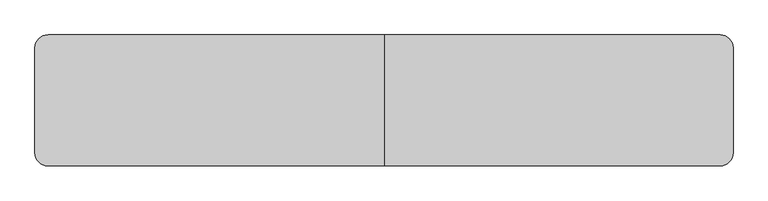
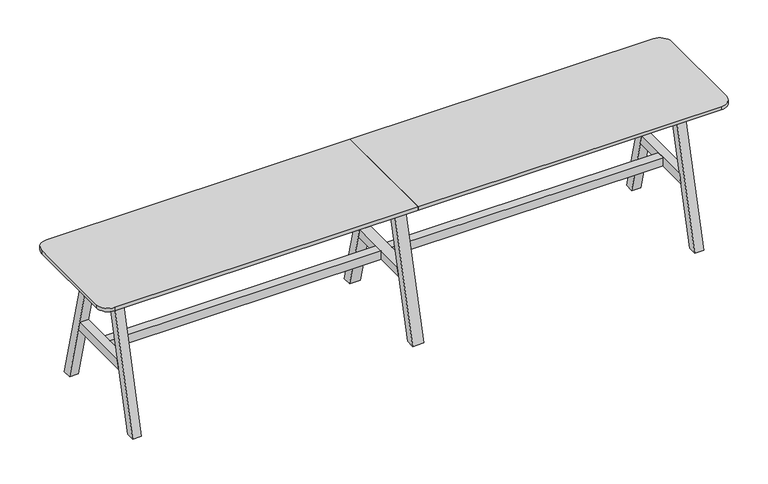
"""IFC4 building model written with IfcOpenShell, lengths in millimetres: furniture geometry, BDG_BossDesign_Tbls_AgentTables6Legs : AGE-DT-6L-3200-600-3D."""

from ifc_helpers import new_model, si_unit, point, frame, frame_2d, origin, place, context, project, spatial, polyline, circle_curve, trimmed, segment, composite_curve, outline, extrude, source, transform, mapped, element, save


def furniture_91d1ad21(model_context):
    return source(origin(), model_context, "Body", "SweptSolid", [
        extrude(outline(polyline([(300.0, 0.0), (254.9999949, 0.0), (85.5, 660.0), (130.5000051, 660.0), (300.0, 0.0)])), frame((-27.5, 0.0, 0.0), z_axis=(1.0, 0.0, 0.0), x_axis=(0.0, 1.0, 0.0)), (0.0, 0.0, 1.0), 55.0),
        extrude(outline(polyline([(-300.0, 0.0), (-130.5000051, 660.0), (-85.5, 660.0), (-254.9999949, 0.0), (-300.0, 0.0)])), frame((-27.5, 0.0, 0.0), z_axis=(1.0, 0.0, 0.0), x_axis=(0.0, 1.0, 0.0)), (0.0, 0.0, 1.0), 55.0),
        extrude(outline(polyline([(177.9545427, 300.0), (-177.9545427, 300.0), (-166.3977249, 345.0), (166.3977249, 345.0), (177.9545427, 300.0)])), frame((-27.5, 0.0, 0.0), z_axis=(1.0, 0.0, 0.0), x_axis=(0.0, 1.0, 0.0)), (0.0, 0.0, 1.0), 55.0),
        extrude(outline(composite_curve([segment(polyline([(0.0, 300.0), (0.0, -300.0), (-1540.0, -300.0)]), True, "CONTINUOUS"), segment(trimmed(circle_curve(frame_2d((-1540.0, -240.0)), 60.0), [point((-1540.0, -300.0))], [point((-1600.0, -240.0))], False, "CARTESIAN"), True, "CONTINUOUS"), segment(polyline([(-1600.0, -240.0), (-1600.0, 240.0)]), True, "CONTINUOUS"), segment(trimmed(circle_curve(frame_2d((-1540.0, 240.0)), 60.0), [point((-1600.0, 240.0))], [point((-1540.0, 300.0))], False, "CARTESIAN"), True, "CONTINUOUS"), segment(polyline([(-1540.0, 300.0), (0.0, 300.0)]), True, "CONTINUOUS")], self_intersect=False)), frame((0.0, 0.0, 722.0), z_axis=(0.0, 0.0, 1.0), x_axis=(1.0, 0.0, 0.0)), (0.0, 0.0, 1.0), 18.0),
        extrude(outline(polyline([(-166.3977249, 345.0), (166.3977249, 345.0), (177.9545427, 300.0), (-177.9545427, 300.0), (-166.3977249, 345.0)])), frame((1405.0, 0.0, 0.0), z_axis=(1.0, 0.0, 0.0), x_axis=(0.0, 1.0, 0.0)), (0.0, 0.0, 1.0), 45.0),
        extrude(outline(polyline([(300.0, 0.0), (254.9999949, 0.0), (85.5, 660.0), (130.5000051, 660.0), (300.0, 0.0)])), frame((-1450.0, 0.0, 0.0), z_axis=(1.0, 0.0, 0.0), x_axis=(0.0, 1.0, 0.0)), (0.0, 0.0, 1.0), 45.0),
        extrude(outline(polyline([(-300.0, 0.0), (-130.5000051, 660.0), (-85.5, 660.0), (-254.9999949, 0.0), (-300.0, 0.0)])), frame((-1450.0, 0.0, 0.0), z_axis=(1.0, 0.0, 0.0), x_axis=(0.0, 1.0, 0.0)), (0.0, 0.0, 1.0), 45.0),
        extrude(outline(polyline([(-166.3977249, 345.0), (166.3977249, 345.0), (177.9545427, 300.0), (-177.9545427, 300.0), (-166.3977249, 345.0)])), frame((-1450.0, 0.0, 0.0), z_axis=(1.0, 0.0, 0.0), x_axis=(0.0, 1.0, 0.0)), (0.0, 0.0, 1.0), 45.0),
        extrude(outline(polyline([(-126.6006165, 634.973938), (-104.2770691, 722.0), (-79.5, 722.0), (-101.8235474, 634.973938), (-126.6006165, 634.973938)])), frame((-1405.0, 0.0, 0.0), z_axis=(1.0, 0.0, 0.0), x_axis=(0.0, 1.0, 0.0)), (0.0, 0.0, 1.0), 2810.0),
        extrude(outline(polyline([(126.6006165, 634.973938), (101.8235474, 634.973938), (79.5, 722.0), (104.2770691, 722.0), (126.6006165, 634.973938)])), frame((-1405.0, 0.0, 0.0), z_axis=(1.0, 0.0, 0.0), x_axis=(0.0, 1.0, 0.0)), (0.0, 0.0, 1.0), 2810.0),
        extrude(outline(polyline([(299.7999878, 0.0), (254.7999827, 0.0), (85.5, 660.0), (130.5000051, 660.0), (299.7999878, 0.0)])), frame((1405.0, 0.0, 0.0), z_axis=(1.0, 0.0, 0.0), x_axis=(0.0, 1.0, 0.0)), (0.0, 0.0, 1.0), 45.0),
        extrude(outline(polyline([(-299.7999878, 0.0), (-130.5000051, 660.0), (-85.5, 660.0), (-254.7999827, 0.0), (-299.7999878, 0.0)])), frame((1405.0, 0.0, 0.0), z_axis=(1.0, 0.0, 0.0), x_axis=(0.0, 1.0, 0.0)), (0.0, 0.0, 1.0), 45.0),
        extrude(outline(polyline([(-27.5, 22.5000305), (-27.5, -22.5000305), (-1405.0, -22.5000305), (-1405.0, 22.5000305), (-27.5, 22.5000305)])), frame((0.0, 0.0, 300.0), z_axis=(0.0, 0.0, 1.0), x_axis=(1.0, 0.0, 0.0)), (0.0, 0.0, 1.0), 45.0),
        extrude(outline(polyline([(27.5, -22.5000305), (27.5, 22.5000305), (1405.0, 22.5000305), (1405.0, -22.5000305), (27.5, -22.5000305)])), frame((0.0, 0.0, 300.0), z_axis=(0.0, 0.0, 1.0), x_axis=(1.0, 0.0, 0.0)), (0.0, 0.0, 1.0), 45.0),
        extrude(outline(composite_curve([segment(trimmed(circle_curve(frame_2d((1540.0, 240.0)), 60.0), [point((1540.0, 300.0))], [point((1600.0, 240.0))], False, "CARTESIAN"), True, "CONTINUOUS"), segment(polyline([(1600.0, 240.0), (1600.0, -240.0)]), True, "CONTINUOUS"), segment(trimmed(circle_curve(frame_2d((1540.0, -240.0)), 60.0), [point((1600.0, -240.0))], [point((1540.0, -300.0))], False, "CARTESIAN"), True, "CONTINUOUS"), segment(polyline([(1540.0, -300.0), (0.0, -300.0), (0.0, 300.0), (1540.0, 300.0)]), True, "CONTINUOUS")], self_intersect=False)), frame((0.0, 0.0, 722.0), z_axis=(0.0, 0.0, 1.0), x_axis=(1.0, 0.0, 0.0)), (0.0, 0.0, 1.0), 18.0),
    ])


if __name__ == "__main__":
    model = new_model("IFC4")
    model_context = context("Model", 3, world=origin())
    ifc_project = project(units=[si_unit("LENGTHUNIT", "METRE", prefix="MILLI")], contexts=[model_context])
    site = spatial("IfcSite", under=ifc_project)
    building = spatial("IfcBuilding", under=site)
    placement = place(None, origin())
    furniture_shape = furniture_91d1ad21(model_context)
    element("IfcFurniture", 1, ObjectType="BDG_BossDesign_Tbls_AgentTables6Legs : AGE-DT-6L-3200-600-3D", at=placement, inside=building, context=model_context, shape_type="MappedRepresentation", body=[
        mapped(furniture_shape, transform((0.0, 0.0, 0.0), x_axis=(1.0, 0.0, 0.0), y_axis=(0.0, 1.0, 0.0), z_axis=(0.0, 0.0, 1.0))),
    ])
    save(model, "model.ifc")
